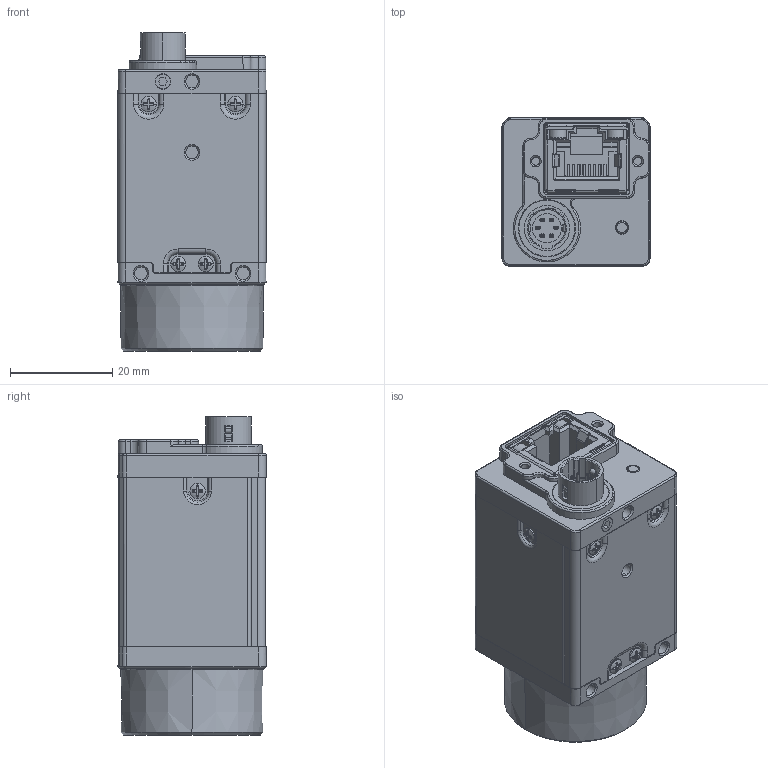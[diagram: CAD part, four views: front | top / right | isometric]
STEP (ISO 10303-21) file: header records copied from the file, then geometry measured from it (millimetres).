
FILE_DESCRIPTION((''),'2;1');
FILE_NAME('MV-CU050-30GMGC','2023-10-08T19:18:00',('zhangfeixiang8'),(''),'CREO PARAMETRIC BY PTC INC, 2020044','CREO PARAMETRIC BY PTC INC, 2020044','');
FILE_SCHEMA(('CONFIG_CONTROL_DESIGN'));
Products named in the file (1): MV-CU050-30GMGC
Bounding box: 29 x 29 x 62.3 mm (x, y, z)
Volume: 35195.7 mm3; surface area: 22156 mm2
Topology: 2 solids, 16 shells, 2491 faces, 6829 edges, 4361 vertices
Faces by surface type: plane 1212, cylinder 542, bspline 273, cone 240, torus 181, sphere 23, extrusion 20
Entity records: 96769 total; most frequent: CARTESIAN_POINT 35378, ORIENTED_EDGE 13618, DIRECTION 11859, EDGE_CURVE 6809, VERTEX_POINT 4361, AXIS2_PLACEMENT_3D 4044, VECTOR 3771, LINE 3751
